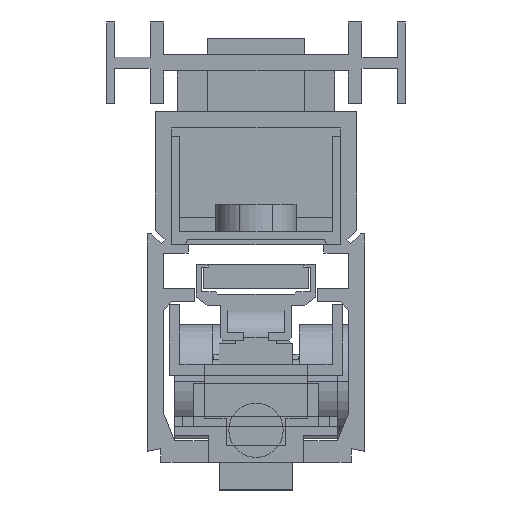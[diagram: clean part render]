
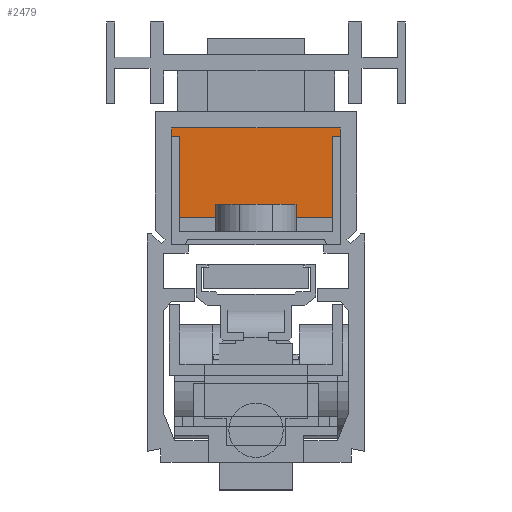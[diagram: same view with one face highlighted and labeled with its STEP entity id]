
A CAD part, left-side view. The second image highlights one B-rep face of the part: STEP entity #2479.
In plain terms, the highlighted planar face has unit normal (-1, 0, 0).
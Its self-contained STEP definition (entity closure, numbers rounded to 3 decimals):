
#2479=ADVANCED_FACE('',(#5795),#5796,.T.);
#5795=FACE_OUTER_BOUND('',#10072,.T.);
#5796=PLANE('',#10073);
#10072=EDGE_LOOP('',(#16905,#16906,#16907,#16908));
#10073=AXIS2_PLACEMENT_3D('',#16909,#16910,#16911);
#16905=ORIENTED_EDGE('',*,*,#27072,.T.);
#16906=ORIENTED_EDGE('',*,*,#27182,.T.);
#16907=ORIENTED_EDGE('',*,*,#27183,.T.);
#16908=ORIENTED_EDGE('',*,*,#27184,.T.);
#16909=CARTESIAN_POINT('',(0.,0.0,10.25));
#16910=DIRECTION('',(-1.0,0.,0.0));
#16911=DIRECTION('',(0.0,0.0,-1.0));
#27072=EDGE_CURVE('',#32720,#32718,#32721,.T.);
#27182=EDGE_CURVE('',#32718,#32878,#32879,.T.);
#27183=EDGE_CURVE('',#32878,#32880,#32881,.T.);
#27184=EDGE_CURVE('',#32880,#32720,#32882,.T.);
#32718=VERTEX_POINT('',#40851);
#32720=VERTEX_POINT('',#40854);
#32721=LINE('',#40855,#40856);
#32878=VERTEX_POINT('',#41064);
#32879=LINE('',#41065,#41066);
#32880=VERTEX_POINT('',#41067);
#32881=LINE('',#41068,#41069);
#32882=LINE('',#41070,#41071);
#40851=CARTESIAN_POINT('',(0.,-15.5,5.0));
#40854=CARTESIAN_POINT('',(0.,15.5,5.0));
#40855=CARTESIAN_POINT('',(0.,-1675.291,5.0));
#40856=VECTOR('',#49937,1.0);
#41064=CARTESIAN_POINT('',(0.,-15.5,21.5));
#41065=CARTESIAN_POINT('',(0.,-15.5,0.0));
#41066=VECTOR('',#50064,1.0);
#41067=CARTESIAN_POINT('',(0.,15.5,21.5));
#41068=CARTESIAN_POINT('',(0.,-15.0,21.5));
#41069=VECTOR('',#50065,1.0);
#41070=CARTESIAN_POINT('',(0.,15.5,20.5));
#41071=VECTOR('',#50066,1.0);
#49937=DIRECTION('',(0.,-1.0,0.0));
#50064=DIRECTION('',(0.0,0.0,1.0));
#50065=DIRECTION('',(0.,1.0,0.0));
#50066=DIRECTION('',(0.0,-0.0,-1.0));
